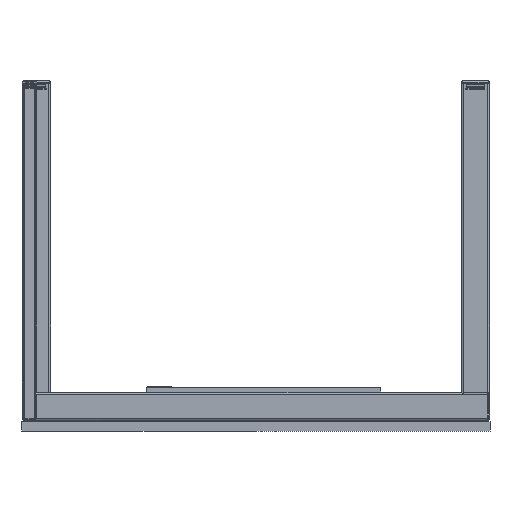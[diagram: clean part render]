
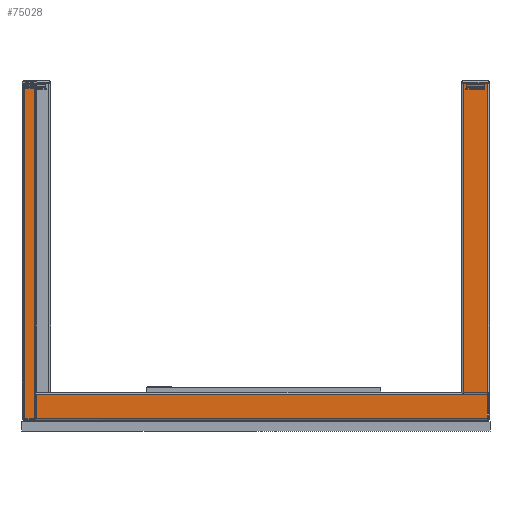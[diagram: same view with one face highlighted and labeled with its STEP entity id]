
A CAD part, front view. The second image highlights one B-rep face of the part: STEP entity #75028.
In plain terms, the highlighted planar face has unit normal (0, -1, 0) as drawn and (-1, 0, 0) by its records, which use the part's own axes.
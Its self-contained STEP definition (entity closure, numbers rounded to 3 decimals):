
#852 = DIRECTION ( 'NONE',  ( 0., 1., 0. ) ) ;
#2098 = LINE ( 'NONE', #29888, #11525 ) ;
#2373 = VECTOR ( 'NONE', #31512, 1000. ) ;
#3010 = VERTEX_POINT ( 'NONE', #41061 ) ;
#3284 = EDGE_CURVE ( 'NONE', #8593, #3010, #33776, .T. ) ;
#3814 = ORIENTED_EDGE ( 'NONE', *, *, #70177, .T. ) ;
#7723 = VECTOR ( 'NONE', #15662, 1000. ) ;
#8593 = VERTEX_POINT ( 'NONE', #75750 ) ;
#10012 = DIRECTION ( 'NONE',  ( 0., 1., 0. ) ) ;
#10948 = DIRECTION ( 'NONE',  ( 1., 0., 0. ) ) ;
#11525 = VECTOR ( 'NONE', #94550, 1000. ) ;
#12170 = LINE ( 'NONE', #57483, #2373 ) ;
#12623 = VECTOR ( 'NONE', #10012, 1000. ) ;
#13121 = EDGE_CURVE ( 'NONE', #107064, #55669, #31138, .T. ) ;
#15492 = CARTESIAN_POINT ( 'NONE',  ( -20., 25., 466. ) ) ;
#15662 = DIRECTION ( 'NONE',  ( 0., 1., 0. ) ) ;
#15681 = LINE ( 'NONE', #89997, #21074 ) ;
#18283 = VERTEX_POINT ( 'NONE', #55070 ) ;
#20261 = ORIENTED_EDGE ( 'NONE', *, *, #25297, .T. ) ;
#21074 = VECTOR ( 'NONE', #33795, 1000. ) ;
#25048 = CARTESIAN_POINT ( 'NONE',  ( -20., 25., 471. ) ) ;
#25297 = EDGE_CURVE ( 'NONE', #18283, #8593, #15681, .T. ) ;
#26899 = ORIENTED_EDGE ( 'NONE', *, *, #37085, .T. ) ;
#29102 = CARTESIAN_POINT ( 'NONE',  ( -20., 25., 466. ) ) ;
#29888 = CARTESIAN_POINT ( 'NONE',  ( -20., 25., 466. ) ) ;
#29928 = CARTESIAN_POINT ( 'NONE',  ( -20., -686., 471. ) ) ;
#31138 = LINE ( 'NONE', #29928, #12623 ) ;
#31512 = DIRECTION ( 'NONE',  ( 0., 0., -1. ) ) ;
#32156 = EDGE_LOOP ( 'NONE', ( #99328, #96585, #65436, #26899, #82447, #20261, #86390, #105942, #83421, #3814 ) ) ;
#33776 = LINE ( 'NONE', #70614, #7723 ) ;
#33795 = DIRECTION ( 'NONE',  ( 0., 0., 1. ) ) ;
#37085 = EDGE_CURVE ( 'NONE', #98268, #80554, #114520, .T. ) ;
#37428 = CARTESIAN_POINT ( 'NONE',  ( -20., -25., -491. ) ) ;
#37682 = EDGE_CURVE ( 'NONE', #49639, #46978, #74291, .T. ) ;
#38329 = DIRECTION ( 'NONE',  ( 0., 0., 1. ) ) ;
#41061 = CARTESIAN_POINT ( 'NONE',  ( -20., -25., -441. ) ) ;
#43061 = EDGE_CURVE ( 'NONE', #46978, #88074, #98272, .T. ) ;
#43961 = EDGE_CURVE ( 'NONE', #88074, #98268, #2098, .T. ) ;
#46025 = FACE_OUTER_BOUND ( 'NONE', #32156, .T. ) ;
#46978 = VERTEX_POINT ( 'NONE', #93614 ) ;
#47105 = EDGE_CURVE ( 'NONE', #55669, #3010, #12170, .T. ) ;
#49639 = VERTEX_POINT ( 'NONE', #110732 ) ;
#50430 = DIRECTION ( 'NONE',  ( 0., -1., 0. ) ) ;
#53869 = VECTOR ( 'NONE', #106173, 1000. ) ;
#55070 = CARTESIAN_POINT ( 'NONE',  ( -20., -686., -491. ) ) ;
#55669 = VERTEX_POINT ( 'NONE', #108871 ) ;
#57483 = CARTESIAN_POINT ( 'NONE',  ( -20., -25., 466. ) ) ;
#58853 = CARTESIAN_POINT ( 'NONE',  ( -20., -758.111, -491. ) ) ;
#65436 = ORIENTED_EDGE ( 'NONE', *, *, #43961, .T. ) ;
#66650 = CARTESIAN_POINT ( 'NONE',  ( -20., 25., -491. ) ) ;
#69308 = CARTESIAN_POINT ( 'NONE',  ( -20., -686., 471. ) ) ;
#70177 = EDGE_CURVE ( 'NONE', #107064, #49639, #95755, .T. ) ;
#70614 = CARTESIAN_POINT ( 'NONE',  ( -20., -758.111, -441. ) ) ;
#73611 = VECTOR ( 'NONE', #852, 1000. ) ;
#74291 = LINE ( 'NONE', #91887, #93151 ) ;
#75028 = ADVANCED_FACE ( 'NONE', ( #46025 ), #91965, .F. ) ;
#75750 = CARTESIAN_POINT ( 'NONE',  ( -20., -686., -441. ) ) ;
#76474 = EDGE_CURVE ( 'NONE', #18283, #80554, #85474, .T. ) ;
#79034 = AXIS2_PLACEMENT_3D ( 'NONE', #29102, #10948, #110111 ) ;
#80554 = VERTEX_POINT ( 'NONE', #37428 ) ;
#82447 = ORIENTED_EDGE ( 'NONE', *, *, #76474, .F. ) ;
#83421 = ORIENTED_EDGE ( 'NONE', *, *, #13121, .F. ) ;
#85474 = LINE ( 'NONE', #58853, #73611 ) ;
#86390 = ORIENTED_EDGE ( 'NONE', *, *, #3284, .T. ) ;
#88074 = VERTEX_POINT ( 'NONE', #25048 ) ;
#89997 = CARTESIAN_POINT ( 'NONE',  ( -20., -686., -441. ) ) ;
#91887 = CARTESIAN_POINT ( 'NONE',  ( -20., -686., 491. ) ) ;
#91965 = PLANE ( 'NONE',  #79034 ) ;
#92476 = DIRECTION ( 'NONE',  ( 0., 1., 0. ) ) ;
#92818 = VECTOR ( 'NONE', #50430, 1000. ) ;
#93151 = VECTOR ( 'NONE', #92476, 1000. ) ;
#93614 = CARTESIAN_POINT ( 'NONE',  ( -20., 25., 491. ) ) ;
#94550 = DIRECTION ( 'NONE',  ( 0., 0., -1. ) ) ;
#95755 = LINE ( 'NONE', #103048, #116924 ) ;
#96585 = ORIENTED_EDGE ( 'NONE', *, *, #43061, .T. ) ;
#98268 = VERTEX_POINT ( 'NONE', #66650 ) ;
#98272 = LINE ( 'NONE', #15492, #53869 ) ;
#99328 = ORIENTED_EDGE ( 'NONE', *, *, #37682, .T. ) ;
#103048 = CARTESIAN_POINT ( 'NONE',  ( -20., -686., 491. ) ) ;
#105408 = CARTESIAN_POINT ( 'NONE',  ( -20., 25., -491. ) ) ;
#105942 = ORIENTED_EDGE ( 'NONE', *, *, #47105, .F. ) ;
#106173 = DIRECTION ( 'NONE',  ( 0., 0., -1. ) ) ;
#107064 = VERTEX_POINT ( 'NONE', #69308 ) ;
#108871 = CARTESIAN_POINT ( 'NONE',  ( -20., -25., 471. ) ) ;
#110111 = DIRECTION ( 'NONE',  ( 0., 1., 0. ) ) ;
#110732 = CARTESIAN_POINT ( 'NONE',  ( -20., -686., 491. ) ) ;
#114520 = LINE ( 'NONE', #105408, #92818 ) ;
#116924 = VECTOR ( 'NONE', #38329, 1000. ) ;
